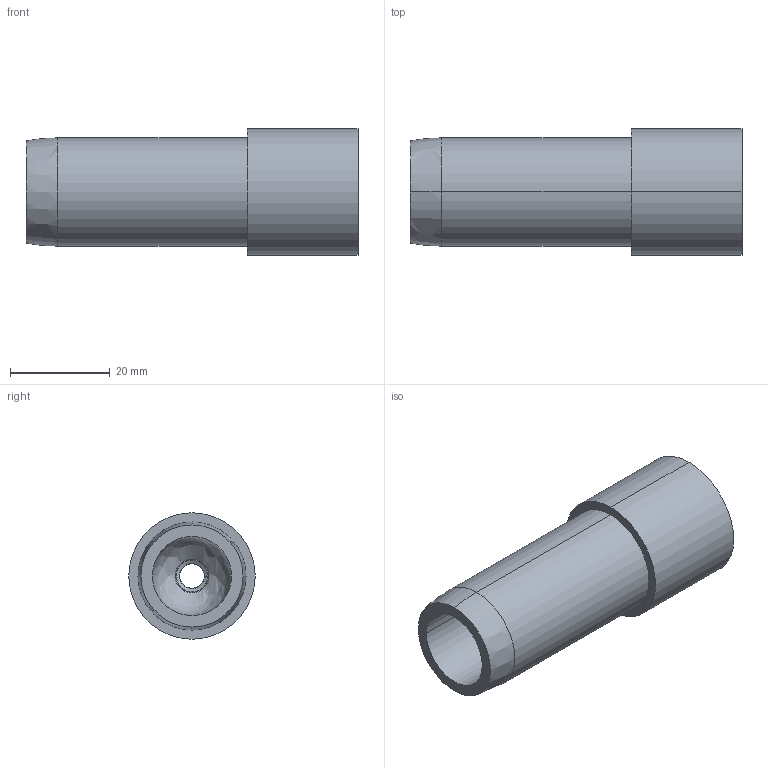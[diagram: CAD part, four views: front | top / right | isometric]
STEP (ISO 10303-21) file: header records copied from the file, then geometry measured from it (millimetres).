
FILE_DESCRIPTION (( 'STEP AP203' ), '1' );
FILE_NAME ('FDPCK-MODCON.875-END-THRD.step', '2019-09-11T18:39:02', ( 'ydmin' ), ( '' ), 'SwSTEP 2.0', 'SolidWorks 2017', '' );
FILE_SCHEMA (( 'CONFIG_CONTROL_DESIGN' ));
Length unit declared in the file: inch
Products named in the file (1): FDPCK-MODCON.875-END-THRD
Bounding box: 66.67 x 25.4 x 25.4 mm (x, y, z)
Volume: 18784.5 mm3; surface area: 9025.6 mm2
Topology: 2 solids, 2 shells, 24 faces, 54 edges, 34 vertices
Faces by surface type: bspline 11, cylinder 8, plane 5
Entity records: 4182 total; most frequent: CARTESIAN_POINT 3620, ORIENTED_EDGE 104, DIRECTION 92, EDGE_CURVE 52, VERTEX_POINT 34, AXIS2_PLACEMENT_3D 34, EDGE_LOOP 28, ADVANCED_FACE 24
